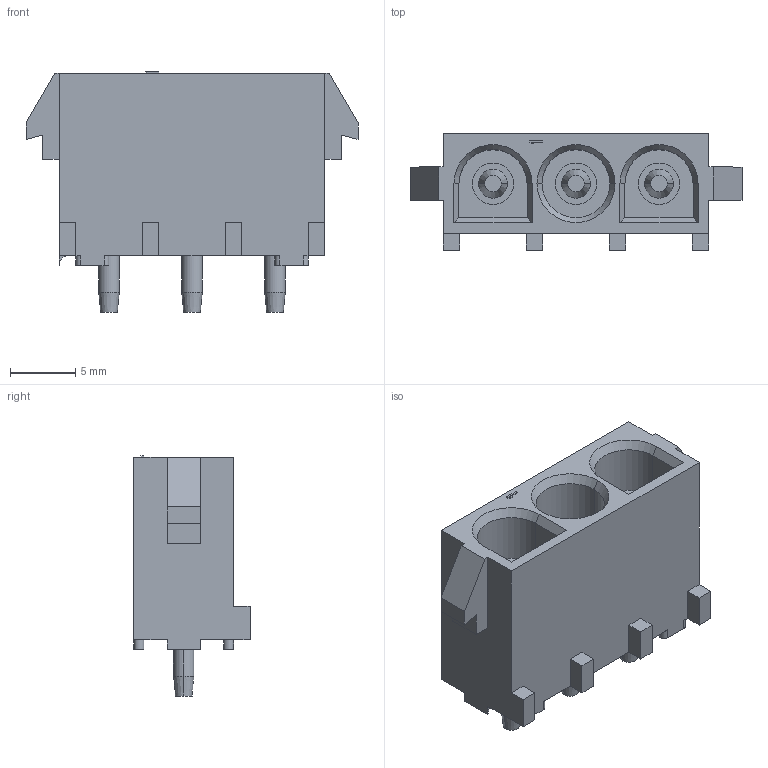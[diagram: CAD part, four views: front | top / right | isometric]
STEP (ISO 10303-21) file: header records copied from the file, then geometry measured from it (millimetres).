
FILE_DESCRIPTION((''),'2;1');
FILE_NAME('C-350789-1','2020-06-02T08:51:57',('workeradm'),('TE Connectivity Ltd.'),'CREO PARAMETRIC BY PTC INC, 2019292','CREO PARAMETRIC BY PTC INC, 2019292','');
FILE_SCHEMA(('AUTOMOTIVE_DESIGN { 1 0 10303 214 1 1 1 1 }'));
Length unit declared in the file: millimetre
Products named in the file (1): C-350789-1
Bounding box: 25.4 x 8.89 x 18.38 mm (x, y, z)
Volume: 1486.5 mm3; surface area: 2164.9 mm2
Topology: 1 solids, 1 shells, 123 faces, 307 edges, 204 vertices
Faces by surface type: plane 76, cylinder 31, cone 16
Entity records: 3836 total; most frequent: DIRECTION 637, CARTESIAN_POINT 629, ORIENTED_EDGE 604, EDGE_CURVE 302, VECTOR 229, LINE 229, AXIS2_PLACEMENT_3D 204, VERTEX_POINT 194
